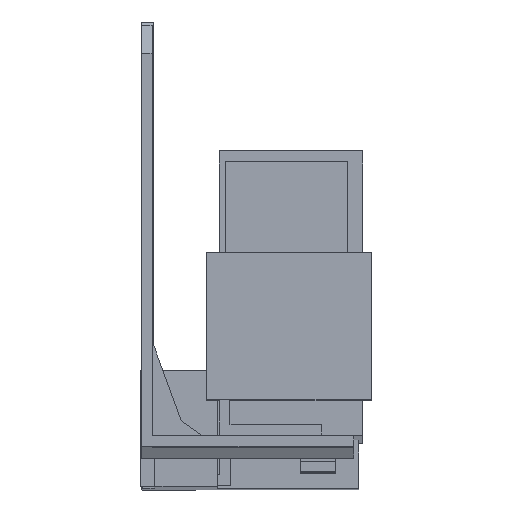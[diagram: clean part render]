
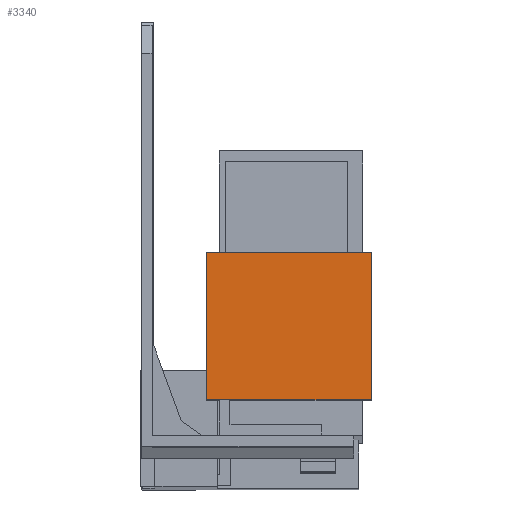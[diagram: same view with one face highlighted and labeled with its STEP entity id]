
A CAD part, front view. The second image highlights one B-rep face of the part: STEP entity #3340.
In plain terms, the highlighted planar face has unit normal (0, -1, 0.003).
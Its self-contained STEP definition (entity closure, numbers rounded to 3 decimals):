
#1393 = VERTEX_POINT ( 'NONE', #1778 ) ;
#1395 = VERTEX_POINT ( 'NONE', #1779 ) ;
#1416 = VERTEX_POINT ( 'NONE', #1761 ) ;
#1418 = VERTEX_POINT ( 'NONE', #1760 ) ;
#1760 = CARTESIAN_POINT ( 'NONE',  ( 32.7, -29.009, -40.322 ) ) ;
#1761 = CARTESIAN_POINT ( 'NONE',  ( 9.3, -29.009, -40.322 ) ) ;
#1778 = CARTESIAN_POINT ( 'NONE',  ( 9.3, -28.952, -19.322 ) ) ;
#1779 = CARTESIAN_POINT ( 'NONE',  ( 32.7, -28.952, -19.322 ) ) ;
#2127 = EDGE_LOOP ( 'NONE', ( #3616, #3617, #3618, #3619 ) ) ;
#2442 = EDGE_CURVE ( 'NONE', #1418, #1395, #5054, .T. ) ;
#2457 = EDGE_CURVE ( 'NONE', #1393, #1395, #5068, .T. ) ;
#2476 = EDGE_CURVE ( 'NONE', #1416, #1393, #5082, .T. ) ;
#2647 = EDGE_CURVE ( 'NONE', #1416, #1418, #5655, .T. ) ;
#2842 = AXIS2_PLACEMENT_3D ( 'NONE', #4640, #4646, #4647 ) ;
#3340 = ADVANCED_FACE ( 'NONE', ( #5602 ), #4637, .T. ) ;
#3616 = ORIENTED_EDGE ( 'NONE', *, *, #2457, .F. ) ;
#3617 = ORIENTED_EDGE ( 'NONE', *, *, #2476, .F. ) ;
#3618 = ORIENTED_EDGE ( 'NONE', *, *, #2647, .T. ) ;
#3619 = ORIENTED_EDGE ( 'NONE', *, *, #2442, .T. ) ;
#3812 = CARTESIAN_POINT ( 'NONE',  ( 9.3, -29.009, -40.322 ) ) ;
#3813 = DIRECTION ( 'NONE',  ( 1., 0., 0. ) ) ;
#4637 = PLANE ( 'NONE',  #2842 ) ;
#4640 = CARTESIAN_POINT ( 'NONE',  ( 9.3, -29.009, -40.322 ) ) ;
#4646 = DIRECTION ( 'NONE',  ( 0., -1., 0.003 ) ) ;
#4647 = DIRECTION ( 'NONE',  ( -1., 0., 0. ) ) ;
#5054 = LINE ( 'NONE', #6755, #5056 ) ;
#5056 = VECTOR ( 'NONE', #6756, 1000. ) ;
#5068 = LINE ( 'NONE', #6364, #5078 ) ;
#5078 = VECTOR ( 'NONE', #6109, 1000. ) ;
#5082 = LINE ( 'NONE', #6132, #5112 ) ;
#5112 = VECTOR ( 'NONE', #6205, 1000. ) ;
#5602 = FACE_OUTER_BOUND ( 'NONE', #2127, .T. ) ;
#5655 = LINE ( 'NONE', #3812, #5657 ) ;
#5657 = VECTOR ( 'NONE', #3813, 1000. ) ;
#6109 = DIRECTION ( 'NONE',  ( 1., 0., 0. ) ) ;
#6132 = CARTESIAN_POINT ( 'NONE',  ( 9.3, -29.009, -40.322 ) ) ;
#6205 = DIRECTION ( 'NONE',  ( 0., 0.003, 1. ) ) ;
#6364 = CARTESIAN_POINT ( 'NONE',  ( 9.3, -28.952, -19.322 ) ) ;
#6755 = CARTESIAN_POINT ( 'NONE',  ( 32.7, -29.009, -40.322 ) ) ;
#6756 = DIRECTION ( 'NONE',  ( 0., 0.003, 1. ) ) ;
